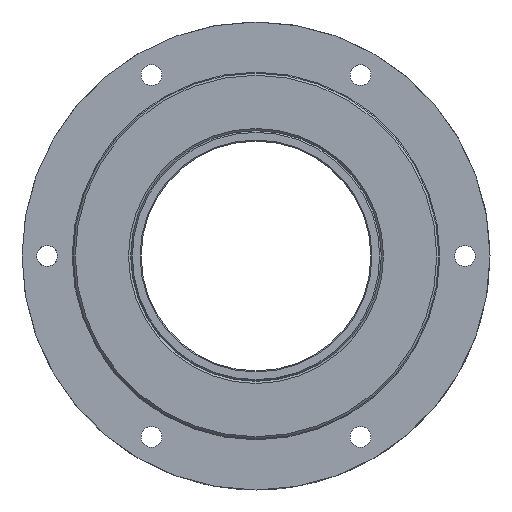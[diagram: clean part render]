
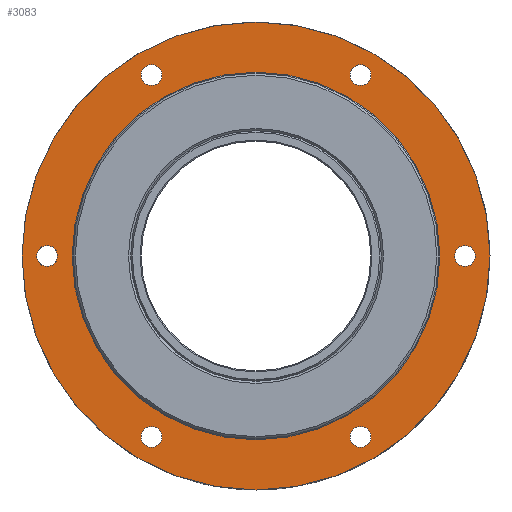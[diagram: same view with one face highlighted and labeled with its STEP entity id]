
A CAD part, front view. The second image highlights one B-rep face of the part: STEP entity #3083.
In plain terms, the highlighted planar face has unit normal (0, -1, 0).
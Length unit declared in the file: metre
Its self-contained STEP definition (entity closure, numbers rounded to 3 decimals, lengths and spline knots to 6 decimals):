
#3083=ADVANCED_FACE('',(#6293,#6294,#6295,#6296,#6297,#6298,#6299,#6300),#6301,.F.);
#6293=FACE_BOUND('',#12457,.T.);
#6294=FACE_BOUND('',#12458,.T.);
#6295=FACE_BOUND('',#12459,.T.);
#6296=FACE_BOUND('',#12460,.T.);
#6297=FACE_BOUND('',#12461,.T.);
#6298=FACE_BOUND('',#12462,.T.);
#6299=FACE_OUTER_BOUND('',#12463,.T.);
#6300=FACE_BOUND('',#12464,.T.);
#6301=PLANE('',#12465);
#12457=EDGE_LOOP('',(#18254));
#12458=EDGE_LOOP('',(#18255));
#12459=EDGE_LOOP('',(#18256));
#12460=EDGE_LOOP('',(#18257));
#12461=EDGE_LOOP('',(#18258));
#12462=EDGE_LOOP('',(#18259));
#12463=EDGE_LOOP('',(#18260));
#12464=EDGE_LOOP('',(#18261));
#12465=AXIS2_PLACEMENT_3D('',#18262,#18263,#18264);
#18254=ORIENTED_EDGE('',*,*,#19364,.T.);
#18255=ORIENTED_EDGE('',*,*,#19316,.T.);
#18256=ORIENTED_EDGE('',*,*,#19319,.T.);
#18257=ORIENTED_EDGE('',*,*,#19333,.T.);
#18258=ORIENTED_EDGE('',*,*,#19390,.T.);
#18259=ORIENTED_EDGE('',*,*,#19391,.T.);
#18260=ORIENTED_EDGE('',*,*,#19392,.F.);
#18261=ORIENTED_EDGE('',*,*,#19393,.T.);
#18262=CARTESIAN_POINT('',(0.506249,0.135215,0.0));
#18263=DIRECTION('',(0.,1.0,0.0));
#18264=DIRECTION('',(-1.0,0.,0.0));
#19316=EDGE_CURVE('',#19517,#19517,#19518,.T.);
#19319=EDGE_CURVE('',#19522,#19522,#19523,.T.);
#19333=EDGE_CURVE('',#19545,#19545,#19546,.T.);
#19364=EDGE_CURVE('',#19590,#19590,#19591,.T.);
#19390=EDGE_CURVE('',#19623,#19623,#19624,.T.);
#19391=EDGE_CURVE('',#19625,#19625,#19626,.T.);
#19392=EDGE_CURVE('',#19627,#19627,#19628,.T.);
#19393=EDGE_CURVE('',#19629,#19629,#19630,.T.);
#19517=VERTEX_POINT('',#19822);
#19518=CIRCLE('',#19823,0.005);
#19522=VERTEX_POINT('',#19827);
#19523=CIRCLE('',#19828,0.005);
#19545=VERTEX_POINT('',#19857);
#19546=CIRCLE('',#19858,0.005);
#19590=VERTEX_POINT('',#19930);
#19591=CIRCLE('',#19931,0.005);
#19623=VERTEX_POINT('',#19977);
#19624=CIRCLE('',#19978,0.005);
#19625=VERTEX_POINT('',#19979);
#19626=CIRCLE('',#19980,0.005);
#19627=VERTEX_POINT('',#19981);
#19628=CIRCLE('',#19982,0.112);
#19629=VERTEX_POINT('',#19983);
#19630=CIRCLE('',#19984,0.088);
#19822=CARTESIAN_POINT('',(0.639249,0.135215,0.086603));
#19823=AXIS2_PLACEMENT_3D('',#20135,#20136,#20137);
#19827=CARTESIAN_POINT('',(0.689249,0.135215,0.));
#19828=AXIS2_PLACEMENT_3D('',#20141,#20142,#20143);
#19857=CARTESIAN_POINT('',(0.639249,0.135215,-0.086603));
#19858=AXIS2_PLACEMENT_3D('',#20160,#20161,#20162);
#19930=CARTESIAN_POINT('',(0.539249,0.135215,0.086603));
#19931=AXIS2_PLACEMENT_3D('',#20195,#20196,#20197);
#19977=CARTESIAN_POINT('',(0.539249,0.135215,-0.086603));
#19978=AXIS2_PLACEMENT_3D('',#20226,#20227,#20228);
#19979=CARTESIAN_POINT('',(0.489249,0.135215,0.0));
#19980=AXIS2_PLACEMENT_3D('',#20229,#20230,#20231);
#19981=CARTESIAN_POINT('',(0.482249,0.135215,0.0));
#19982=AXIS2_PLACEMENT_3D('',#20232,#20233,#20234);
#19983=CARTESIAN_POINT('',(0.506249,0.135215,0.0));
#19984=AXIS2_PLACEMENT_3D('',#20235,#20236,#20237);
#20135=CARTESIAN_POINT('',(0.644249,0.135215,0.086603));
#20136=DIRECTION('',(0.,1.0,0.0));
#20137=DIRECTION('',(-1.0,0.,0.0));
#20141=CARTESIAN_POINT('',(0.694249,0.135215,0.));
#20142=DIRECTION('',(0.,1.0,0.0));
#20143=DIRECTION('',(-1.0,0.,0.0));
#20160=CARTESIAN_POINT('',(0.644249,0.135215,-0.086603));
#20161=DIRECTION('',(0.,1.0,0.0));
#20162=DIRECTION('',(-1.0,0.,0.0));
#20195=CARTESIAN_POINT('',(0.544249,0.135215,0.086603));
#20196=DIRECTION('',(0.,1.0,0.0));
#20197=DIRECTION('',(-1.0,0.,0.0));
#20226=CARTESIAN_POINT('',(0.544249,0.135215,-0.086603));
#20227=DIRECTION('',(0.,1.0,0.0));
#20228=DIRECTION('',(-1.0,0.,0.0));
#20229=CARTESIAN_POINT('',(0.494249,0.135215,0.0));
#20230=DIRECTION('',(0.,1.0,0.0));
#20231=DIRECTION('',(-1.0,0.,0.0));
#20232=CARTESIAN_POINT('',(0.594249,0.135215,0.0));
#20233=DIRECTION('',(0.,1.0,0.0));
#20234=DIRECTION('',(-1.0,0.,0.0));
#20235=CARTESIAN_POINT('',(0.594249,0.135215,0.0));
#20236=DIRECTION('',(0.,1.0,0.0));
#20237=DIRECTION('',(-1.0,0.,0.0));
